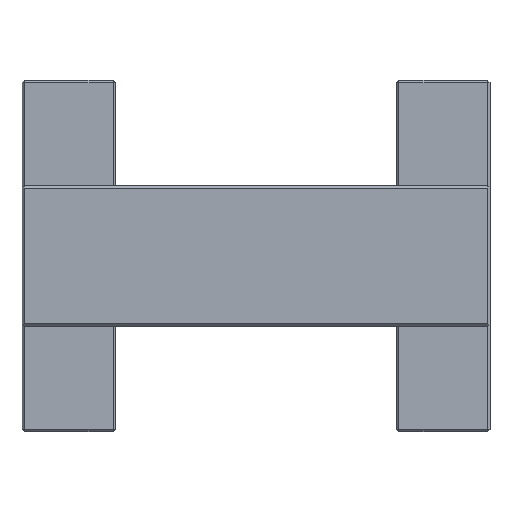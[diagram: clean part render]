
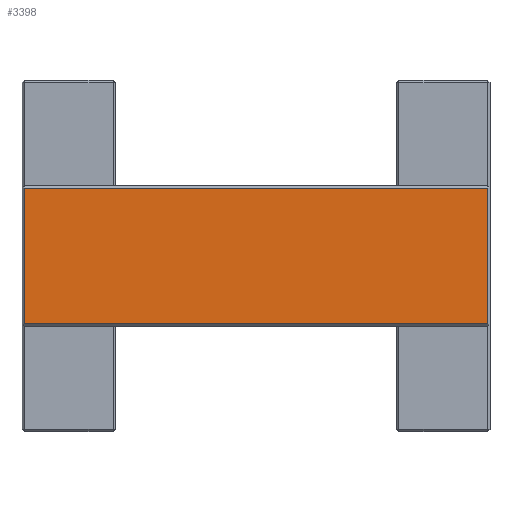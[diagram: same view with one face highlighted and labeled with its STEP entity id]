
A CAD part, top view. The second image highlights one B-rep face of the part: STEP entity #3398.
In plain terms, the highlighted planar face has unit normal (0, 0, 1).
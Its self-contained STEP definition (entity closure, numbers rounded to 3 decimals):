
#2818 = PLANE('',#2819);
#2819 = AXIS2_PLACEMENT_3D('',#2820,#2821,#2822);
#2820 = CARTESIAN_POINT('',(1.,90.,35.));
#2821 = DIRECTION('',(0.707,0.,-0.707));
#2822 = DIRECTION('',(0.,1.,0.));
#3001 = VERTEX_POINT('',#3002);
#3002 = CARTESIAN_POINT('',(2.,92.,36.));
#3025 = VERTEX_POINT('',#3026);
#3026 = CARTESIAN_POINT('',(2.,208.,36.));
#3052 = EDGE_CURVE('',#3001,#3025,#3053,.T.);
#3053 = SURFACE_CURVE('',#3054,(#3058,#3065),.PCURVE_S1.);
#3054 = LINE('',#3055,#3056);
#3055 = CARTESIAN_POINT('',(2.,90.,36.));
#3056 = VECTOR('',#3057,1.);
#3057 = DIRECTION('',(0.,1.,0.));
#3058 = PCURVE('',#2818,#3059);
#3059 = DEFINITIONAL_REPRESENTATION('',(#3060),#3064);
#3060 = LINE('',#3061,#3062);
#3061 = CARTESIAN_POINT('',(0.,1.414));
#3062 = VECTOR('',#3063,1.);
#3063 = DIRECTION('',(1.,0.));
#3064 = ( GEOMETRIC_REPRESENTATION_CONTEXT(2) 
PARAMETRIC_REPRESENTATION_CONTEXT() REPRESENTATION_CONTEXT('2D SPACE',''
  ) );
#3065 = PCURVE('',#3066,#3071);
#3066 = PLANE('',#3067);
#3067 = AXIS2_PLACEMENT_3D('',#3068,#3069,#3070);
#3068 = CARTESIAN_POINT('',(0.,90.,36.));
#3069 = DIRECTION('',(0.,0.,1.));
#3070 = DIRECTION('',(1.,0.,0.));
#3071 = DEFINITIONAL_REPRESENTATION('',(#3072),#3076);
#3072 = LINE('',#3073,#3074);
#3073 = CARTESIAN_POINT('',(2.,0.));
#3074 = VECTOR('',#3075,1.);
#3075 = DIRECTION('',(0.,1.));
#3076 = ( GEOMETRIC_REPRESENTATION_CONTEXT(2) 
PARAMETRIC_REPRESENTATION_CONTEXT() REPRESENTATION_CONTEXT('2D SPACE',''
  ) );
#3228 = PLANE('',#3229);
#3229 = AXIS2_PLACEMENT_3D('',#3230,#3231,#3232);
#3230 = CARTESIAN_POINT('',(0.,91.,35.));
#3231 = DIRECTION('',(0.,0.707,-0.707));
#3232 = DIRECTION('',(-1.,-0.,-0.));
#3398 = ADVANCED_FACE('',(#3399),#3066,.T.);
#3399 = FACE_BOUND('',#3400,.T.);
#3400 = EDGE_LOOP('',(#3401,#3429,#3430,#3453));
#3401 = ORIENTED_EDGE('',*,*,#3402,.F.);
#3402 = EDGE_CURVE('',#3025,#3403,#3405,.T.);
#3403 = VERTEX_POINT('',#3404);
#3404 = CARTESIAN_POINT('',(398.,208.,36.));
#3405 = SURFACE_CURVE('',#3406,(#3410,#3417),.PCURVE_S1.);
#3406 = LINE('',#3407,#3408);
#3407 = CARTESIAN_POINT('',(0.,208.,36.));
#3408 = VECTOR('',#3409,1.);
#3409 = DIRECTION('',(1.,0.,0.));
#3410 = PCURVE('',#3066,#3411);
#3411 = DEFINITIONAL_REPRESENTATION('',(#3412),#3416);
#3412 = LINE('',#3413,#3414);
#3413 = CARTESIAN_POINT('',(0.,118.));
#3414 = VECTOR('',#3415,1.);
#3415 = DIRECTION('',(1.,0.));
#3416 = ( GEOMETRIC_REPRESENTATION_CONTEXT(2) 
PARAMETRIC_REPRESENTATION_CONTEXT() REPRESENTATION_CONTEXT('2D SPACE',''
  ) );
#3417 = PCURVE('',#3418,#3423);
#3418 = PLANE('',#3419);
#3419 = AXIS2_PLACEMENT_3D('',#3420,#3421,#3422);
#3420 = CARTESIAN_POINT('',(0.,209.,35.));
#3421 = DIRECTION('',(0.,0.707,0.707));
#3422 = DIRECTION('',(-1.,-0.,0.));
#3423 = DEFINITIONAL_REPRESENTATION('',(#3424),#3428);
#3424 = LINE('',#3425,#3426);
#3425 = CARTESIAN_POINT('',(-0.,1.414));
#3426 = VECTOR('',#3427,1.);
#3427 = DIRECTION('',(-1.,0.));
#3428 = ( GEOMETRIC_REPRESENTATION_CONTEXT(2) 
PARAMETRIC_REPRESENTATION_CONTEXT() REPRESENTATION_CONTEXT('2D SPACE',''
  ) );
#3429 = ORIENTED_EDGE('',*,*,#3052,.F.);
#3430 = ORIENTED_EDGE('',*,*,#3431,.T.);
#3431 = EDGE_CURVE('',#3001,#3432,#3434,.T.);
#3432 = VERTEX_POINT('',#3433);
#3433 = CARTESIAN_POINT('',(398.,92.,36.));
#3434 = SURFACE_CURVE('',#3435,(#3439,#3446),.PCURVE_S1.);
#3435 = LINE('',#3436,#3437);
#3436 = CARTESIAN_POINT('',(0.,92.,36.));
#3437 = VECTOR('',#3438,1.);
#3438 = DIRECTION('',(1.,0.,0.));
#3439 = PCURVE('',#3066,#3440);
#3440 = DEFINITIONAL_REPRESENTATION('',(#3441),#3445);
#3441 = LINE('',#3442,#3443);
#3442 = CARTESIAN_POINT('',(0.,2.));
#3443 = VECTOR('',#3444,1.);
#3444 = DIRECTION('',(1.,0.));
#3445 = ( GEOMETRIC_REPRESENTATION_CONTEXT(2) 
PARAMETRIC_REPRESENTATION_CONTEXT() REPRESENTATION_CONTEXT('2D SPACE',''
  ) );
#3446 = PCURVE('',#3228,#3447);
#3447 = DEFINITIONAL_REPRESENTATION('',(#3448),#3452);
#3448 = LINE('',#3449,#3450);
#3449 = CARTESIAN_POINT('',(-0.,1.414));
#3450 = VECTOR('',#3451,1.);
#3451 = DIRECTION('',(-1.,0.));
#3452 = ( GEOMETRIC_REPRESENTATION_CONTEXT(2) 
PARAMETRIC_REPRESENTATION_CONTEXT() REPRESENTATION_CONTEXT('2D SPACE',''
  ) );
#3453 = ORIENTED_EDGE('',*,*,#3454,.T.);
#3454 = EDGE_CURVE('',#3432,#3403,#3455,.T.);
#3455 = SURFACE_CURVE('',#3456,(#3460,#3467),.PCURVE_S1.);
#3456 = LINE('',#3457,#3458);
#3457 = CARTESIAN_POINT('',(398.,90.,36.));
#3458 = VECTOR('',#3459,1.);
#3459 = DIRECTION('',(0.,1.,0.));
#3460 = PCURVE('',#3066,#3461);
#3461 = DEFINITIONAL_REPRESENTATION('',(#3462),#3466);
#3462 = LINE('',#3463,#3464);
#3463 = CARTESIAN_POINT('',(398.,0.));
#3464 = VECTOR('',#3465,1.);
#3465 = DIRECTION('',(0.,1.));
#3466 = ( GEOMETRIC_REPRESENTATION_CONTEXT(2) 
PARAMETRIC_REPRESENTATION_CONTEXT() REPRESENTATION_CONTEXT('2D SPACE',''
  ) );
#3467 = PCURVE('',#3468,#3473);
#3468 = PLANE('',#3469);
#3469 = AXIS2_PLACEMENT_3D('',#3470,#3471,#3472);
#3470 = CARTESIAN_POINT('',(399.,90.,35.));
#3471 = DIRECTION('',(0.707,0.,0.707));
#3472 = DIRECTION('',(-0.,1.,0.));
#3473 = DEFINITIONAL_REPRESENTATION('',(#3474),#3478);
#3474 = LINE('',#3475,#3476);
#3475 = CARTESIAN_POINT('',(0.,1.414));
#3476 = VECTOR('',#3477,1.);
#3477 = DIRECTION('',(1.,0.));
#3478 = ( GEOMETRIC_REPRESENTATION_CONTEXT(2) 
PARAMETRIC_REPRESENTATION_CONTEXT() REPRESENTATION_CONTEXT('2D SPACE',''
  ) );
